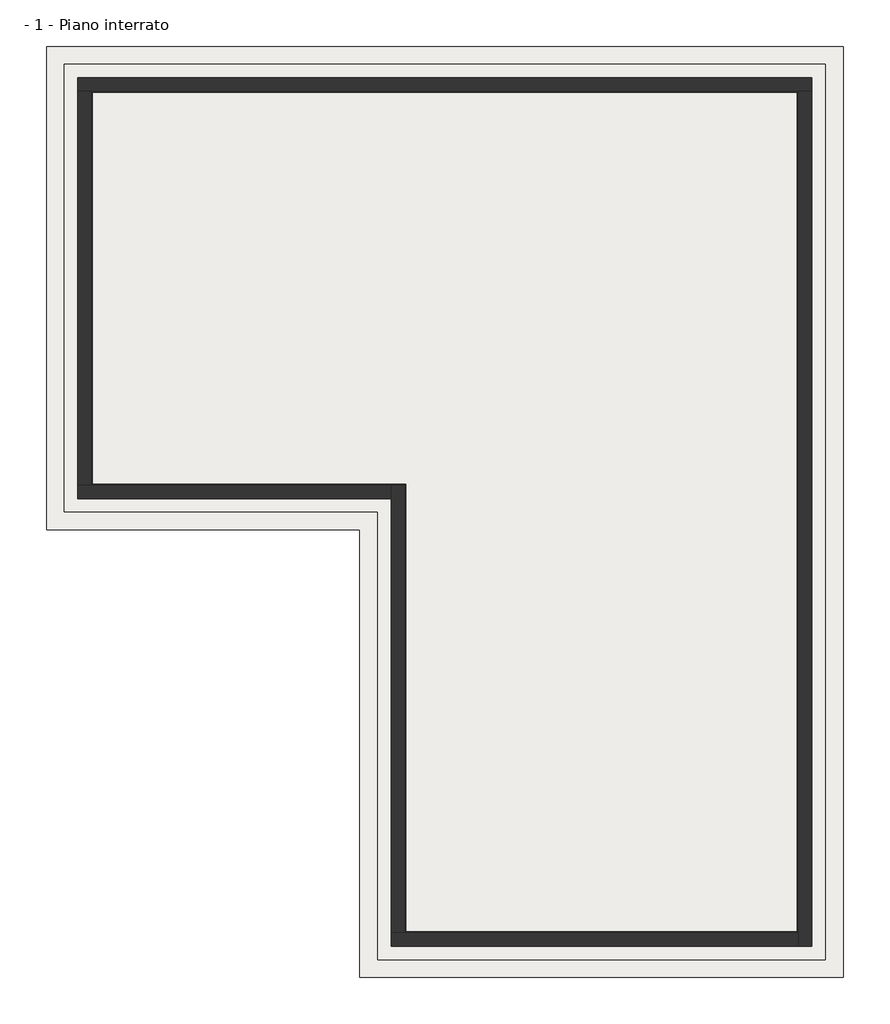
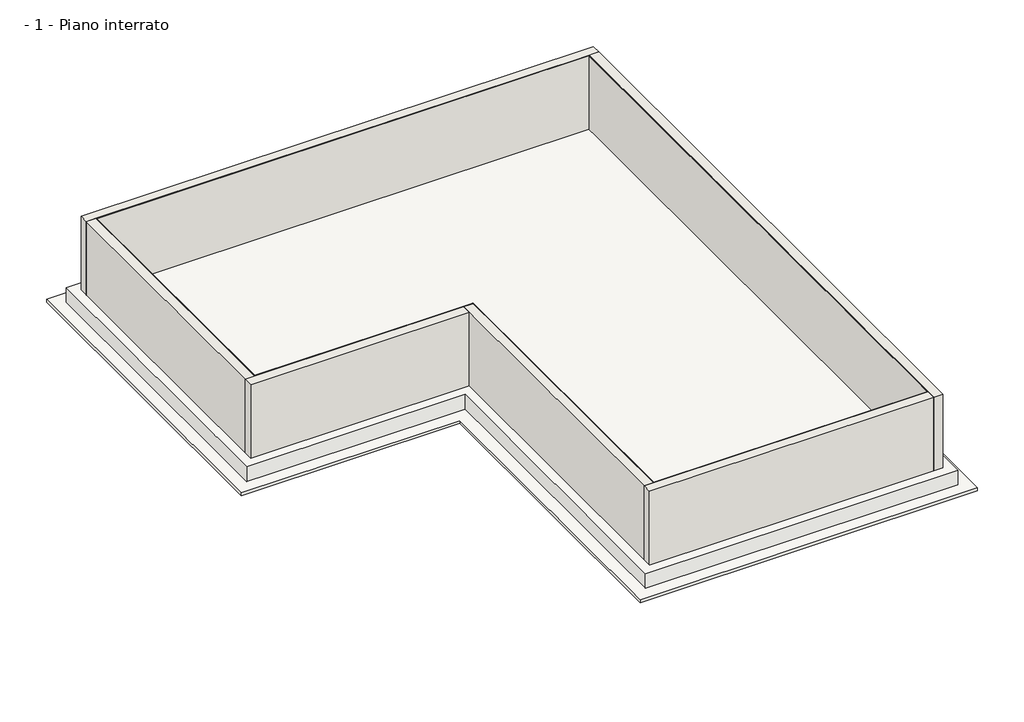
# One storey: 24 walls, 2 slabs.
"""IFC4 building model written with IfcOpenShell, lengths in millimetres."""

from ifc_helpers import new_model, si_unit, frame, origin, place, context, project, spatial, polyline, outline, extrude, faceted_brep, element, save

model = new_model("IFC4")

# Units and contexts
model_context = context("Model", 3, world=origin())
ifc_project = project(units=[si_unit("LENGTHUNIT", "METRE", prefix="MILLI")], contexts=[model_context])

# Site, building, storey
site = spatial("IfcSite", under=ifc_project)
building = spatial("IfcBuilding", under=site)
storey = spatial("IfcBuildingStorey", under=building, Name="- 1 - Piano interrato", Elevation=-2500.0)

# Slabs
placement = place(None, origin())
element("IfcSlab", 1, ObjectType="Magrone - 10 cm", at=placement, inside=storey, context=model_context, shape_type="SweptSolid", body=[
    extrude(outline(polyline([(-6527.8968209, 10028.648913), (11272.1031791, 10028.648913), (11272.1031791, -10771.351087), (472.1031791, -10771.351087), (472.1031791, -771.351087), (-6527.8968209, -771.351087), (-6527.8968209, 10028.648913)])), frame((0.0, 0.0, -3100.0), z_axis=(0.0, 0.0, 1.0), x_axis=(1.0, 0.0, 0.0)), (0.0, 0.0, 1.0), 100.0),
])
element("IfcSlab", 2, ObjectType="Platea - 50 cm", at=placement, inside=storey, context=model_context, shape_type="SweptSolid", body=[
    extrude(outline(polyline([(-6127.8968209, -371.351087), (-6127.8968209, 9628.648913), (10872.1031791, 9628.648913), (10872.1031791, -10371.351087), (872.1031791, -10371.351087), (872.1031791, -371.351087), (-6127.8968209, -371.351087)])), frame((0.0, 0.0, -3000.0), z_axis=(0.0, 0.0, 1.0), x_axis=(1.0, 0.0, 0.0)), (0.0, 0.0, 1.0), 500.0),
])

# Walls
element("IfcWall", 3, ObjectType="BI MORTAR PLASTER SEAL VOLTECO", at=placement, inside=storey, context=model_context, shape_type="Brep", body=[
    faceted_brep([(-5517.8968209, 228.648913, -2500.0), (-5517.8968209, 238.648913, -2500.0), (-5517.8968209, 239.648913, -2500.0), (-5517.8968209, 9018.648913, -2500.0), (-5517.8968209, 9028.648913, -2500.0), (-5517.8968209, 9028.648913, 0.0), (-5517.8968209, 9018.648913, 0.0), (-5517.8968209, 239.648913, 0.0), (-5517.8968209, 238.648913, 0.0), (-5517.8968209, 228.648913, 0.0), (-5527.8968209, 228.648913, -2500.0), (-5527.8968209, 228.648913, 0.0), (-5527.8968209, 9028.648913, 0.0), (-5527.8968209, 9028.648913, -2500.0)], [[[0, 1, 2, 3, 4, 5, 6, 7, 8, 9]], [[10, 11, 12, 13]], [[4, 3, 2, 1, 0, 10, 13]], [[9, 8, 7, 6, 5, 12, 11]], [[5, 4, 13, 12]], [[0, 9, 11, 10]]]),
])
element("IfcWall", 4, ObjectType="BI MORTAR PLASTER SEAL VOLTECO", at=placement, inside=storey, context=model_context, shape_type="Brep", body=[
    faceted_brep([(-5517.8968209, 9018.648913, -2500.0), (-5516.8968209, 9018.648913, -2500.0), (10262.1031791, 9018.648913, -2500.0), (10272.1031791, 9018.648913, -2500.0), (10272.1031791, 9018.648913, 0.0), (10262.1031791, 9018.648913, 0.0), (-5516.8968209, 9018.648913, 0.0), (-5517.8968209, 9018.648913, 0.0), (-5517.8968209, 9028.648913, -2500.0), (-5517.8968209, 9028.648913, 0.0), (10272.1031791, 9028.648913, 0.0), (10272.1031791, 9028.648913, -2500.0)], [[[0, 1, 2, 3, 4, 5, 6, 7]], [[8, 9, 10, 11]], [[3, 2, 1, 0, 8, 11]], [[7, 6, 5, 4, 10, 9]], [[4, 3, 11, 10]], [[0, 7, 9, 8]]]),
])
element("IfcWall", 5, ObjectType="BI MORTAR PLASTER SEAL VOLTECO", at=placement, inside=storey, context=model_context, shape_type="Brep", body=[
    faceted_brep([(10272.1031791, -9761.351087, -2500.0), (10262.1031791, -9761.351087, -2500.0), (10261.1031791, -9761.351087, -2500.0), (1482.1031791, -9761.351087, -2500.0), (1472.1031791, -9761.351087, -2500.0), (1472.1031791, -9761.351087, 0.0), (1482.1031791, -9761.351087, 0.0), (10261.1031791, -9761.351087, 0.0), (10262.1031791, -9761.351087, 0.0), (10272.1031791, -9761.351087, 0.0), (10272.1031791, -9771.351087, -2500.0), (10272.1031791, -9771.351087, 0.0), (1472.1031791, -9771.351087, 0.0), (1472.1031791, -9771.351087, -2500.0)], [[[0, 1, 2, 3, 4, 5, 6, 7, 8, 9]], [[10, 11, 12, 13]], [[4, 3, 2, 1, 0, 10, 13]], [[9, 8, 7, 6, 5, 12, 11]], [[5, 4, 13, 12]], [[0, 9, 11, 10]]]),
])
element("IfcWall", 6, ObjectType="BI MORTAR PLASTER SEAL VOLTECO", at=placement, inside=storey, context=model_context, shape_type="Brep", body=[
    faceted_brep([(1482.1031791, -9761.351087, -2500.0), (1482.1031791, -9760.351087, -2500.0), (1482.1031791, 238.648913, -2500.0), (1482.1031791, 238.648913, 0.0), (1482.1031791, -9760.351087, 0.0), (1482.1031791, -9761.351087, 0.0), (1472.1031791, -9761.351087, -2500.0), (1472.1031791, -9761.351087, 0.0), (1472.1031791, 228.648913, 0.0), (1472.1031791, 238.648913, 0.0), (1472.1031791, 238.648913, -2500.0), (1472.1031791, 228.648913, -2500.0)], [[[0, 1, 2, 3, 4, 5]], [[6, 7, 8, 9, 10, 11]], [[2, 1, 0, 6, 11, 10]], [[5, 4, 3, 9, 8, 7]], [[0, 5, 7, 6]], [[3, 2, 10, 9]]]),
])
element("IfcWall", 7, ObjectType="BI MORTAR PLASTER SEAL VOLTECO", at=placement, inside=storey, context=model_context, shape_type="SweptSolid", body=[
    extrude(outline(polyline([(-5517.8968209, 238.648913), (1472.1031791, 238.648913), (1472.1031791, 228.648913), (-5517.8968209, 228.648913), (-5517.8968209, 238.648913)])), frame((0.0, 0.0, -2500.0), z_axis=(0.0, 0.0, 1.0), x_axis=(1.0, 0.0, 0.0)), (0.0, 0.0, 1.0), 2500.0),
])
element("IfcWall", 8, ObjectType="RETE REVOMAT VOLTECO", at=placement, inside=storey, context=model_context, shape_type="Brep", body=[
    faceted_brep([(1483.1031791, 239.648913, -2500.0), (-5506.8968209, 239.648913, -2500.0), (-5516.8968209, 239.648913, -2500.0), (-5517.8968209, 239.648913, -2500.0), (-5517.8968209, 239.648913, 0.0), (-5516.8968209, 239.648913, 0.0), (-5506.8968209, 239.648913, 0.0), (1483.1031791, 239.648913, 0.0), (1483.1031791, 238.648913, -2500.0), (1483.1031791, 238.648913, 0.0), (1482.1031791, 238.648913, 0.0), (-5517.8968209, 238.648913, 0.0), (-5517.8968209, 238.648913, -2500.0), (1482.1031791, 238.648913, -2500.0)], [[[0, 1, 2, 3, 4, 5, 6, 7]], [[8, 9, 10, 11, 12, 13]], [[3, 2, 1, 0, 8, 13, 12]], [[7, 6, 5, 4, 11, 10, 9]], [[4, 3, 12, 11]], [[0, 7, 9, 8]]]),
])
element("IfcWall", 9, ObjectType="RETE REVOMAT VOLTECO", at=placement, inside=storey, context=model_context, shape_type="Brep", body=[
    faceted_brep([(-5516.8968209, 239.648913, -2500.0), (-5516.8968209, 9017.648913, -2500.0), (-5516.8968209, 9018.648913, -2500.0), (-5516.8968209, 9018.648913, 0.0), (-5516.8968209, 9017.648913, 0.0), (-5516.8968209, 239.648913, 0.0), (-5517.8968209, 239.648913, -2500.0), (-5517.8968209, 239.648913, 0.0), (-5517.8968209, 9018.648913, 0.0), (-5517.8968209, 9018.648913, -2500.0)], [[[0, 1, 2, 3, 4, 5]], [[6, 7, 8, 9]], [[2, 1, 0, 6, 9]], [[5, 4, 3, 8, 7]], [[3, 2, 9, 8]], [[0, 5, 7, 6]]]),
])
element("IfcWall", 10, ObjectType="BI MORTAR PLASTER SEAL VOLTECO", at=placement, inside=storey, context=model_context, shape_type="Brep", body=[
    faceted_brep([(10262.1031791, 9018.648913, -2500.0), (10262.1031791, 9017.648913, -2500.0), (10262.1031791, -9761.351087, -2500.0), (10262.1031791, -9761.351087, 0.0), (10262.1031791, 9017.648913, 0.0), (10262.1031791, 9018.648913, 0.0), (10272.1031791, 9018.648913, -2500.0), (10272.1031791, 9018.648913, 0.0), (10272.1031791, -9761.351087, 0.0), (10272.1031791, -9761.351087, -2500.0)], [[[0, 1, 2, 3, 4, 5]], [[6, 7, 8, 9]], [[2, 1, 0, 6, 9]], [[5, 4, 3, 8, 7]], [[3, 2, 9, 8]], [[0, 5, 7, 6]]]),
])
element("IfcWall", 11, ObjectType="RETE REVOMAT VOLTECO", at=placement, inside=storey, context=model_context, shape_type="Brep", body=[
    faceted_brep([(-5516.8968209, 9017.648913, -2500.0), (-5506.8968209, 9017.648913, -2500.0), (10261.1031791, 9017.648913, -2500.0), (10262.1031791, 9017.648913, -2500.0), (10262.1031791, 9017.648913, 0.0), (10261.1031791, 9017.648913, 0.0), (-5506.8968209, 9017.648913, 0.0), (-5516.8968209, 9017.648913, 0.0), (-5516.8968209, 9018.648913, -2500.0), (-5516.8968209, 9018.648913, 0.0), (10262.1031791, 9018.648913, 0.0), (10262.1031791, 9018.648913, -2500.0)], [[[0, 1, 2, 3, 4, 5, 6, 7]], [[8, 9, 10, 11]], [[3, 2, 1, 0, 8, 11]], [[7, 6, 5, 4, 10, 9]], [[0, 7, 9, 8]], [[4, 3, 11, 10]]]),
])
element("IfcWall", 12, ObjectType="RETE REVOMAT VOLTECO", at=placement, inside=storey, context=model_context, shape_type="Brep", body=[
    faceted_brep([(10261.1031791, 9017.648913, -2500.0), (10261.1031791, 9007.648913, -2500.0), (10261.1031791, -9760.351087, -2500.0), (10261.1031791, -9761.351087, -2500.0), (10261.1031791, -9761.351087, 0.0), (10261.1031791, -9760.351087, 0.0), (10261.1031791, 9007.648913, 0.0), (10261.1031791, 9017.648913, 0.0), (10262.1031791, 9017.648913, -2500.0), (10262.1031791, 9017.648913, 0.0), (10262.1031791, -9761.351087, 0.0), (10262.1031791, -9761.351087, -2500.0)], [[[0, 1, 2, 3, 4, 5, 6, 7]], [[8, 9, 10, 11]], [[3, 2, 1, 0, 8, 11]], [[7, 6, 5, 4, 10, 9]], [[4, 3, 11, 10]], [[0, 7, 9, 8]]]),
])
element("IfcWall", 13, ObjectType="RETE REVOMAT VOLTECO", at=placement, inside=storey, context=model_context, shape_type="Brep", body=[
    faceted_brep([(10261.1031791, -9760.351087, -2500.0), (10251.1031791, -9760.351087, -2500.0), (1483.1031791, -9760.351087, -2500.0), (1482.1031791, -9760.351087, -2500.0), (1482.1031791, -9760.351087, 0.0), (1483.1031791, -9760.351087, 0.0), (10251.1031791, -9760.351087, 0.0), (10261.1031791, -9760.351087, 0.0), (10261.1031791, -9761.351087, -2500.0), (10261.1031791, -9761.351087, 0.0), (1482.1031791, -9761.351087, 0.0), (1482.1031791, -9761.351087, -2500.0)], [[[0, 1, 2, 3, 4, 5, 6, 7]], [[8, 9, 10, 11]], [[3, 2, 1, 0, 8, 11]], [[7, 6, 5, 4, 10, 9]], [[4, 3, 11, 10]], [[0, 7, 9, 8]]]),
])
element("IfcWall", 14, ObjectType="RETE REVOMAT VOLTECO", at=placement, inside=storey, context=model_context, shape_type="Brep", body=[
    faceted_brep([(1483.1031791, -9760.351087, -2500.0), (1483.1031791, -9750.351087, -2500.0), (1483.1031791, 238.648913, -2500.0), (1483.1031791, 238.648913, 0.0), (1483.1031791, -9750.351087, 0.0), (1483.1031791, -9760.351087, 0.0), (1482.1031791, -9760.351087, -2500.0), (1482.1031791, -9760.351087, 0.0), (1482.1031791, 238.648913, 0.0), (1482.1031791, 238.648913, -2500.0)], [[[0, 1, 2, 3, 4, 5]], [[6, 7, 8, 9]], [[2, 1, 0, 6, 9]], [[5, 4, 3, 8, 7]], [[3, 2, 9, 8]], [[0, 5, 7, 6]]]),
])
element("IfcWall", 15, ObjectType="BI MORTAR PLASTER SEAL VOLTECO", at=placement, inside=storey, context=model_context, shape_type="Brep", body=[
    faceted_brep([(-5506.8968209, 239.648913, -2500.0), (-5506.8968209, 249.648913, -2500.0), (-5506.8968209, 9007.648913, -2500.0), (-5506.8968209, 9017.648913, -2500.0), (-5506.8968209, 9017.648913, 0.0), (-5506.8968209, 9007.648913, 0.0), (-5506.8968209, 249.648913, 0.0), (-5506.8968209, 239.648913, 0.0), (-5516.8968209, 239.648913, -2500.0), (-5516.8968209, 239.648913, 0.0), (-5516.8968209, 9017.648913, 0.0), (-5516.8968209, 9017.648913, -2500.0)], [[[0, 1, 2, 3, 4, 5, 6, 7]], [[8, 9, 10, 11]], [[3, 2, 1, 0, 8, 11]], [[7, 6, 5, 4, 10, 9]], [[0, 7, 9, 8]], [[4, 3, 11, 10]]]),
])
element("IfcWall", 16, ObjectType="BI MORTAR PLASTER SEAL VOLTECO", at=placement, inside=storey, context=model_context, shape_type="Brep", body=[
    faceted_brep([(-5506.8968209, 9007.648913, -2500.0), (10251.1031791, 9007.648913, -2500.0), (10261.1031791, 9007.648913, -2500.0), (10261.1031791, 9007.648913, 0.0), (10251.1031791, 9007.648913, 0.0), (-5506.8968209, 9007.648913, 0.0), (-5506.8968209, 9017.648913, -2500.0), (-5506.8968209, 9017.648913, 0.0), (10261.1031791, 9017.648913, 0.0), (10261.1031791, 9017.648913, -2500.0)], [[[0, 1, 2, 3, 4, 5]], [[6, 7, 8, 9]], [[2, 1, 0, 6, 9]], [[5, 4, 3, 8, 7]], [[3, 2, 9, 8]], [[0, 5, 7, 6]]]),
])
element("IfcWall", 17, ObjectType="BI MORTAR PLASTER SEAL VOLTECO", at=placement, inside=storey, context=model_context, shape_type="Brep", body=[
    faceted_brep([(10251.1031791, 9007.648913, -2500.0), (10251.1031791, -9750.351087, -2500.0), (10251.1031791, -9760.351087, -2500.0), (10251.1031791, -9760.351087, 0.0), (10251.1031791, -9750.351087, 0.0), (10251.1031791, 9007.648913, 0.0), (10261.1031791, 9007.648913, -2500.0), (10261.1031791, 9007.648913, 0.0), (10261.1031791, -9760.351087, 0.0), (10261.1031791, -9760.351087, -2500.0)], [[[0, 1, 2, 3, 4, 5]], [[6, 7, 8, 9]], [[2, 1, 0, 6, 9]], [[5, 4, 3, 8, 7]], [[3, 2, 9, 8]], [[0, 5, 7, 6]]]),
])
element("IfcWall", 18, ObjectType="BI MORTAR PLASTER SEAL VOLTECO", at=placement, inside=storey, context=model_context, shape_type="Brep", body=[
    faceted_brep([(10251.1031791, -9750.351087, -2500.0), (1493.1031791, -9750.351087, -2500.0), (1483.1031791, -9750.351087, -2500.0), (1483.1031791, -9750.351087, 0.0), (1493.1031791, -9750.351087, 0.0), (10251.1031791, -9750.351087, 0.0), (10251.1031791, -9760.351087, -2500.0), (10251.1031791, -9760.351087, 0.0), (1483.1031791, -9760.351087, 0.0), (1483.1031791, -9760.351087, -2500.0)], [[[0, 1, 2, 3, 4, 5]], [[6, 7, 8, 9]], [[2, 1, 0, 6, 9]], [[5, 4, 3, 8, 7]], [[3, 2, 9, 8]], [[0, 5, 7, 6]]]),
])
element("IfcWall", 19, ObjectType="BI MORTAR PLASTER SEAL VOLTECO", at=placement, inside=storey, context=model_context, shape_type="Brep", body=[
    faceted_brep([(1493.1031791, -9750.351087, -2500.0), (1493.1031791, 249.648913, -2500.0), (1493.1031791, 249.648913, -2438.0), (1493.1031791, 249.648913, 0.0), (1493.1031791, -9750.351087, 0.0), (1493.1031791, -9750.351087, -2438.0), (1483.1031791, 249.648913, -2500.0), (1483.1031791, 239.648913, -2500.0), (1483.1031791, 238.648913, -2500.0), (1483.1031791, -9750.351087, -2500.0), (1483.1031791, -9750.351087, 0.0), (1483.1031791, 238.648913, 0.0), (1483.1031791, 239.648913, 0.0), (1483.1031791, 249.648913, 0.0), (1483.1031791, 249.648913, -2438.0)], [[[0, 1, 2, 3, 4, 5]], [[6, 7, 8, 9, 10, 11, 12, 13, 14]], [[1, 0, 9, 8, 7, 6]], [[4, 3, 13, 12, 11, 10]], [[4, 10, 9, 0, 5]], [[1, 6, 14, 13, 3, 2]]]),
])
element("IfcWall", 20, ObjectType="BI MORTAR PLASTER SEAL VOLTECO", at=placement, inside=storey, context=model_context, shape_type="Brep", body=[
    faceted_brep([(1483.1031791, 249.648913, -2500.0), (-5506.8968209, 249.648913, -2500.0), (-5506.8968209, 249.648913, -2438.0), (-5506.8968209, 249.648913, 0.0), (1483.1031791, 249.648913, 0.0), (1483.1031791, 249.648913, -2438.0), (-5506.8968209, 239.648913, -2500.0), (1483.1031791, 239.648913, -2500.0), (1483.1031791, 239.648913, 0.0), (-5506.8968209, 239.648913, 0.0)], [[[0, 1, 2, 3, 4, 5]], [[6, 7, 8, 9]], [[1, 0, 7, 6]], [[4, 3, 9, 8]], [[4, 8, 7, 0, 5]], [[1, 6, 9, 3, 2]]]),
])
element("IfcWall", 21, ObjectType="Generico - 30 cm", at=placement, inside=storey, context=model_context, shape_type="Brep", body=[
    faceted_brep([(-5827.8968209, 9028.648913, -2500.0), (-5527.8968209, 9028.648913, -2500.0), (10272.1031791, 9028.648913, -2500.0), (10572.1031791, 9028.648913, -2500.0), (10572.1031791, 9028.648913, 0.0), (10272.1031791, 9028.648913, 0.0), (-5527.8968209, 9028.648913, 0.0), (-5827.8968209, 9028.648913, 0.0), (-5827.8968209, 9328.648913, -2500.0), (-5827.8968209, 9328.648913, 0.0), (10572.1031791, 9328.648913, 0.0), (10572.1031791, 9328.648913, -2500.0)], [[[0, 1, 2, 3, 4, 5, 6, 7]], [[8, 9, 10, 11]], [[3, 2, 1, 0, 8, 11]], [[7, 6, 5, 4, 10, 9]], [[4, 3, 11, 10]], [[0, 7, 9, 8]]]),
])
element("IfcWall", 22, ObjectType="Generico - 30 cm", at=placement, inside=storey, context=model_context, shape_type="Brep", body=[
    faceted_brep([(10272.1031791, 9028.648913, -2500.0), (10272.1031791, -9771.351087, -2500.0), (10272.1031791, -10071.351087, -2500.0), (10272.1031791, -10071.351087, 0.0), (10272.1031791, -9771.351087, 0.0), (10272.1031791, 9028.648913, 0.0), (10572.1031791, 9028.648913, -2500.0), (10572.1031791, 9028.648913, 0.0), (10572.1031791, -10071.351087, 0.0), (10572.1031791, -10071.351087, -2500.0)], [[[0, 1, 2, 3, 4, 5]], [[6, 7, 8, 9]], [[2, 1, 0, 6, 9]], [[5, 4, 3, 8, 7]], [[0, 5, 7, 6]], [[3, 2, 9, 8]]]),
])
element("IfcWall", 23, ObjectType="Generico - 30 cm", at=placement, inside=storey, context=model_context, shape_type="Brep", body=[
    faceted_brep([(10272.1031791, -9771.351087, -2500.0), (1472.1031791, -9771.351087, -2500.0), (1172.1031791, -9771.351087, -2500.0), (1172.1031791, -9771.351087, 0.0), (1472.1031791, -9771.351087, 0.0), (10272.1031791, -9771.351087, 0.0), (10272.1031791, -10071.351087, -2500.0), (10272.1031791, -10071.351087, 0.0), (1172.1031791, -10071.351087, 0.0), (1172.1031791, -10071.351087, -2500.0)], [[[0, 1, 2, 3, 4, 5]], [[6, 7, 8, 9]], [[2, 1, 0, 6, 9]], [[5, 4, 3, 8, 7]], [[0, 5, 7, 6]], [[3, 2, 9, 8]]]),
])
element("IfcWall", 24, ObjectType="Generico - 30 cm", at=placement, inside=storey, context=model_context, shape_type="Brep", body=[
    faceted_brep([(1472.1031791, -9771.351087, -2500.0), (1472.1031791, 228.648913, -2500.0), (1472.1031791, 228.648913, 0.0), (1472.1031791, -9771.351087, 0.0), (1172.1031791, -9771.351087, -2500.0), (1172.1031791, -9771.351087, 0.0), (1172.1031791, -71.351087, 0.0), (1172.1031791, 228.648913, 0.0), (1172.1031791, 228.648913, -2500.0), (1172.1031791, -71.351087, -2500.0)], [[[0, 1, 2, 3]], [[4, 5, 6, 7, 8, 9]], [[1, 0, 4, 9, 8]], [[3, 2, 7, 6, 5]], [[0, 3, 5, 4]], [[2, 1, 8, 7]]]),
])
element("IfcWall", 25, ObjectType="Generico - 30 cm", at=placement, inside=storey, context=model_context, shape_type="Brep", body=[
    faceted_brep([(1172.1031791, 228.648913, -2500.0), (-5527.8968209, 228.648913, -2500.0), (-5827.8968209, 228.648913, -2500.0), (-5827.8968209, 228.648913, 0.0), (-5527.8968209, 228.648913, 0.0), (1172.1031791, 228.648913, 0.0), (1172.1031791, -71.351087, -2500.0), (1172.1031791, -71.351087, 0.0), (-5827.8968209, -71.351087, 0.0), (-5827.8968209, -71.351087, -2500.0)], [[[0, 1, 2, 3, 4, 5]], [[6, 7, 8, 9]], [[2, 1, 0, 6, 9]], [[5, 4, 3, 8, 7]], [[0, 5, 7, 6]], [[3, 2, 9, 8]]]),
])
element("IfcWall", 26, ObjectType="Generico - 30 cm", at=placement, inside=storey, context=model_context, shape_type="SweptSolid", body=[
    extrude(outline(polyline([(-5527.8968209, 9028.648913), (-5527.8968209, 228.648913), (-5827.8968209, 228.648913), (-5827.8968209, 9028.648913), (-5527.8968209, 9028.648913)])), frame((0.0, 0.0, -2500.0), z_axis=(0.0, 0.0, 1.0), x_axis=(1.0, 0.0, 0.0)), (0.0, 0.0, 1.0), 2500.0),
])

save(model, "model.ifc")
